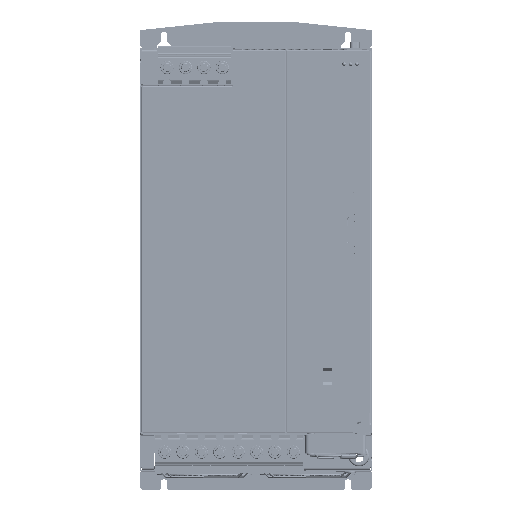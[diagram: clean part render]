
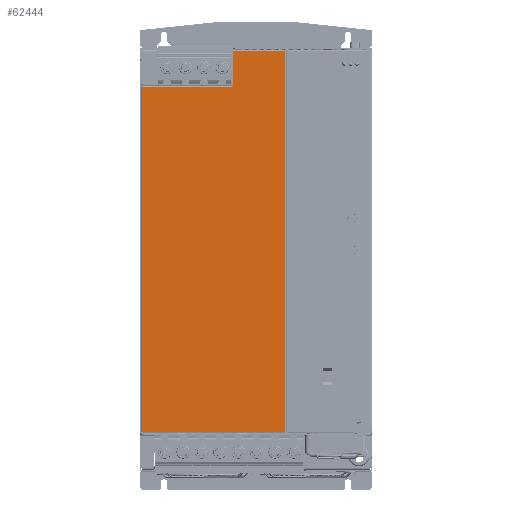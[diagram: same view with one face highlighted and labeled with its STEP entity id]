
A CAD part, top view. The second image highlights one B-rep face of the part: STEP entity #62444.
In plain terms, the highlighted planar face has unit normal (0, 0, 1) as drawn and (0, 1, 0) by its records, which use the part's own axes.
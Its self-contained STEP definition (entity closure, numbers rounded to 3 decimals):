
#14110 = CARTESIAN_POINT ( 'NONE',  ( -93.75, 20., 170.05 ) ) ;
#14626 = CARTESIAN_POINT ( 'NONE',  ( -18.2, 20., -140.55 ) ) ;
#15141 = CARTESIAN_POINT ( 'NONE',  ( -93.55, 20., -111.25 ) ) ;
#49564 = ORIENTED_EDGE ( 'NONE', *, *, #186801, .T. ) ;
#49567 = ORIENTED_EDGE ( 'NONE', *, *, #186399, .F. ) ;
#49573 = ORIENTED_EDGE ( 'NONE', *, *, #186768, .T. ) ;
#49576 = ORIENTED_EDGE ( 'NONE', *, *, #186420, .T. ) ;
#49580 = ORIENTED_EDGE ( 'NONE', *, *, #186495, .T. ) ;
#49583 = ORIENTED_EDGE ( 'NONE', *, *, #186771, .T. ) ;
#49587 = ORIENTED_EDGE ( 'NONE', *, *, #186489, .T. ) ;
#49591 = ORIENTED_EDGE ( 'NONE', *, *, #186604, .T. ) ;
#49595 = ORIENTED_EDGE ( 'NONE', *, *, #186774, .T. ) ;
#49598 = ORIENTED_EDGE ( 'NONE', *, *, #186592, .F. ) ;
#49600 = ORIENTED_EDGE ( 'NONE', *, *, #186777, .T. ) ;
#49603 = ORIENTED_EDGE ( 'NONE', *, *, #186782, .T. ) ;
#49605 = ORIENTED_EDGE ( 'NONE', *, *, #186786, .T. ) ;
#49608 = ORIENTED_EDGE ( 'NONE', *, *, #186634, .F. ) ;
#49614 = ORIENTED_EDGE ( 'NONE', *, *, #186789, .T. ) ;
#49617 = ORIENTED_EDGE ( 'NONE', *, *, #186648, .T. ) ;
#49619 = ORIENTED_EDGE ( 'NONE', *, *, #186793, .T. ) ;
#49622 = ORIENTED_EDGE ( 'NONE', *, *, #186798, .T. ) ;
#50186 = AXIS2_PLACEMENT_3D ( 'NONE', #162486, #162505, #162506 ) ;
#62444 = ADVANCED_FACE ( 'NONE', ( #124908 ), #162503, .T. ) ;
#64244 = CARTESIAN_POINT ( 'NONE',  ( -19.4, 20., -140.55 ) ) ;
#64542 = VERTEX_POINT ( 'NONE', #152317 ) ;
#64594 = CARTESIAN_POINT ( 'NONE',  ( 22.8, 20., -140.55 ) ) ;
#64605 = VERTEX_POINT ( 'NONE', #152412 ) ;
#64655 = VERTEX_POINT ( 'NONE', #167329 ) ;
#64725 = VERTEX_POINT ( 'NONE', #262153 ) ;
#65018 = CARTESIAN_POINT ( 'NONE',  ( 22.8, 20., -140.75 ) ) ;
#65161 = VERTEX_POINT ( 'NONE', #263039 ) ;
#65192 = VERTEX_POINT ( 'NONE', #263111 ) ;
#65420 = VERTEX_POINT ( 'NONE', #143913 ) ;
#65557 = VERTEX_POINT ( 'NONE', #144389 ) ;
#65689 = VERTEX_POINT ( 'NONE', #144821 ) ;
#66014 = VERTEX_POINT ( 'NONE', #145572 ) ;
#66105 = VERTEX_POINT ( 'NONE', #64244 ) ;
#66215 = VERTEX_POINT ( 'NONE', #64594 ) ;
#66325 = VERTEX_POINT ( 'NONE', #65018 ) ;
#66675 = VERTEX_POINT ( 'NONE', #126705 ) ;
#66728 = VERTEX_POINT ( 'NONE', #127035 ) ;
#66829 = VERTEX_POINT ( 'NONE', #14110 ) ;
#66927 = VERTEX_POINT ( 'NONE', #14626 ) ;
#66998 = VERTEX_POINT ( 'NONE', #15141 ) ;
#81884 = CARTESIAN_POINT ( 'NONE',  ( -20.4, 20., -111.25 ) ) ;
#81886 = DIRECTION ( 'NONE',  ( 0., 0., 1. ) ) ;
#81947 = CARTESIAN_POINT ( 'NONE',  ( -93.55, 20., -111.05 ) ) ;
#81951 = DIRECTION ( 'NONE',  ( 0., 0., 1. ) ) ;
#82184 = CARTESIAN_POINT ( 'NONE',  ( -93.55, 20., 170.05 ) ) ;
#82187 = DIRECTION ( 'NONE',  ( 1., 0., 0. ) ) ;
#82217 = CARTESIAN_POINT ( 'NONE',  ( -94.75, 20., -111.05 ) ) ;
#82219 = DIRECTION ( 'NONE',  ( -1., 0., 0. ) ) ;
#124908 = FACE_OUTER_BOUND ( 'NONE', #204381, .T. ) ;
#126705 = CARTESIAN_POINT ( 'NONE',  ( -20.4, 20., -111.05 ) ) ;
#127035 = CARTESIAN_POINT ( 'NONE',  ( -19.4, 20., -111.05 ) ) ;
#143913 = CARTESIAN_POINT ( 'NONE',  ( -93.55, 20., 170.05 ) ) ;
#144389 = CARTESIAN_POINT ( 'NONE',  ( -93.55, 20., 170.25 ) ) ;
#144821 = CARTESIAN_POINT ( 'NONE',  ( 22.8, 20., 170.05 ) ) ;
#145572 = CARTESIAN_POINT ( 'NONE',  ( -93.75, 20., -111.05 ) ) ;
#152317 = CARTESIAN_POINT ( 'NONE',  ( -18.2, 20., -140.75 ) ) ;
#152412 = CARTESIAN_POINT ( 'NONE',  ( 23., 20., 170.05 ) ) ;
#162486 = CARTESIAN_POINT ( 'NONE',  ( 24., 20., 171.25 ) ) ;
#162503 = PLANE ( 'NONE',  #50186 ) ;
#162505 = DIRECTION ( 'NONE',  ( 0., 1., 0. ) ) ;
#162506 = DIRECTION ( 'NONE',  ( 0., 0., 1. ) ) ;
#167329 = CARTESIAN_POINT ( 'NONE',  ( -93.55, 20., -111.05 ) ) ;
#186399 = EDGE_CURVE ( 'NONE', #65192, #66675, #231637, .T. ) ;
#186420 = EDGE_CURVE ( 'NONE', #66998, #64655, #231660, .T. ) ;
#186489 = EDGE_CURVE ( 'NONE', #66829, #65420, #231823, .T. ) ;
#186495 = EDGE_CURVE ( 'NONE', #64655, #66014, #231841, .T. ) ;
#186592 = EDGE_CURVE ( 'NONE', #65689, #64725, #232079, .T. ) ;
#186604 = EDGE_CURVE ( 'NONE', #65420, #65557, #232105, .T. ) ;
#186634 = EDGE_CURVE ( 'NONE', #66325, #66215, #232176, .T. ) ;
#186648 = EDGE_CURVE ( 'NONE', #64542, #66927, #232186, .T. ) ;
#186768 = EDGE_CURVE ( 'NONE', #65192, #66998, #232499, .T. ) ;
#186771 = EDGE_CURVE ( 'NONE', #66014, #66829, #232511, .T. ) ;
#186774 = EDGE_CURVE ( 'NONE', #65557, #64725, #232517, .T. ) ;
#186777 = EDGE_CURVE ( 'NONE', #65689, #64605, #232527, .T. ) ;
#186782 = EDGE_CURVE ( 'NONE', #64605, #65161, #232521, .T. ) ;
#186786 = EDGE_CURVE ( 'NONE', #65161, #66215, #232549, .T. ) ;
#186789 = EDGE_CURVE ( 'NONE', #66325, #64542, #232546, .T. ) ;
#186793 = EDGE_CURVE ( 'NONE', #66927, #66105, #232564, .T. ) ;
#186798 = EDGE_CURVE ( 'NONE', #66105, #66728, #232583, .T. ) ;
#186801 = EDGE_CURVE ( 'NONE', #66728, #66675, #232578, .T. ) ;
#204381 = EDGE_LOOP ( 'NONE', ( #49564, #49567, #49573, #49576, #49580, #49583, #49587, #49591, #49595, #49598, #49600, #49603, #49605, #49608, #49614, #49617, #49619, #49622 ) ) ;
#231637 = LINE ( 'NONE', #81884, #231642 ) ;
#231642 = VECTOR ( 'NONE', #81886, 1000. ) ;
#231660 = LINE ( 'NONE', #81947, #231685 ) ;
#231685 = VECTOR ( 'NONE', #81951, 1000. ) ;
#231823 = LINE ( 'NONE', #82184, #231831 ) ;
#231831 = VECTOR ( 'NONE', #82187, 1000. ) ;
#231841 = LINE ( 'NONE', #82217, #231847 ) ;
#231847 = VECTOR ( 'NONE', #82219, 1000. ) ;
#232079 = LINE ( 'NONE', #267570, #232083 ) ;
#232083 = VECTOR ( 'NONE', #267575, 1000. ) ;
#232105 = LINE ( 'NONE', #267684, #232111 ) ;
#232111 = VECTOR ( 'NONE', #267688, 1000. ) ;
#232176 = LINE ( 'NONE', #267980, #232183 ) ;
#232183 = VECTOR ( 'NONE', #267983, 1000. ) ;
#232186 = LINE ( 'NONE', #268123, #232209 ) ;
#232209 = VECTOR ( 'NONE', #268127, 1000. ) ;
#232499 = LINE ( 'NONE', #269370, #232515 ) ;
#232511 = LINE ( 'NONE', #269406, #232519 ) ;
#232515 = VECTOR ( 'NONE', #269395, 1000. ) ;
#232517 = LINE ( 'NONE', #269422, #232524 ) ;
#232519 = VECTOR ( 'NONE', #269411, 1000. ) ;
#232521 = LINE ( 'NONE', #269520, #232542 ) ;
#232524 = VECTOR ( 'NONE', #269429, 1000. ) ;
#232527 = LINE ( 'NONE', #269465, #232531 ) ;
#232531 = VECTOR ( 'NONE', #269470, 1000. ) ;
#232542 = VECTOR ( 'NONE', #269524, 1000. ) ;
#232546 = LINE ( 'NONE', #269590, #232562 ) ;
#232549 = LINE ( 'NONE', #269579, #232554 ) ;
#232554 = VECTOR ( 'NONE', #269584, 1000. ) ;
#232562 = VECTOR ( 'NONE', #269613, 1000. ) ;
#232564 = LINE ( 'NONE', #269641, #232571 ) ;
#232571 = VECTOR ( 'NONE', #269649, 1000. ) ;
#232578 = LINE ( 'NONE', #269727, #232593 ) ;
#232583 = LINE ( 'NONE', #269716, #232587 ) ;
#232587 = VECTOR ( 'NONE', #269722, 1000. ) ;
#232593 = VECTOR ( 'NONE', #269731, 1000. ) ;
#262153 = CARTESIAN_POINT ( 'NONE',  ( 22.8, 20., 170.25 ) ) ;
#263039 = CARTESIAN_POINT ( 'NONE',  ( 23., 20., -140.55 ) ) ;
#263111 = CARTESIAN_POINT ( 'NONE',  ( -20.4, 20., -111.25 ) ) ;
#267570 = CARTESIAN_POINT ( 'NONE',  ( 22.8, 20., 171.25 ) ) ;
#267575 = DIRECTION ( 'NONE',  ( 0., 0., 1. ) ) ;
#267684 = CARTESIAN_POINT ( 'NONE',  ( -93.55, 20., 171.25 ) ) ;
#267688 = DIRECTION ( 'NONE',  ( 0., 0., 1. ) ) ;
#267980 = CARTESIAN_POINT ( 'NONE',  ( 22.8, 20., -140.75 ) ) ;
#267983 = DIRECTION ( 'NONE',  ( 0., 0., 1. ) ) ;
#268123 = CARTESIAN_POINT ( 'NONE',  ( -18.2, 20., -141.25 ) ) ;
#268127 = DIRECTION ( 'NONE',  ( 0., 0., 1. ) ) ;
#269370 = CARTESIAN_POINT ( 'NONE',  ( 24., 20., -111.25 ) ) ;
#269395 = DIRECTION ( 'NONE',  ( -1., 0., 0. ) ) ;
#269406 = CARTESIAN_POINT ( 'NONE',  ( -93.75, 20., 171.25 ) ) ;
#269411 = DIRECTION ( 'NONE',  ( 0., 0., 1. ) ) ;
#269422 = CARTESIAN_POINT ( 'NONE',  ( 24., 20., 170.25 ) ) ;
#269429 = DIRECTION ( 'NONE',  ( 1., 0., 0. ) ) ;
#269465 = CARTESIAN_POINT ( 'NONE',  ( 24., 20., 170.05 ) ) ;
#269470 = DIRECTION ( 'NONE',  ( 1., 0., 0. ) ) ;
#269520 = CARTESIAN_POINT ( 'NONE',  ( 23., 20., 171.25 ) ) ;
#269524 = DIRECTION ( 'NONE',  ( 0., 0., -1. ) ) ;
#269579 = CARTESIAN_POINT ( 'NONE',  ( 24., 20., -140.55 ) ) ;
#269584 = DIRECTION ( 'NONE',  ( -1., 0., 0. ) ) ;
#269590 = CARTESIAN_POINT ( 'NONE',  ( 24., 20., -140.75 ) ) ;
#269613 = DIRECTION ( 'NONE',  ( -1., 0., 0. ) ) ;
#269641 = CARTESIAN_POINT ( 'NONE',  ( 24., 20., -140.55 ) ) ;
#269649 = DIRECTION ( 'NONE',  ( -1., 0., 0. ) ) ;
#269716 = CARTESIAN_POINT ( 'NONE',  ( -19.4, 20., 171.25 ) ) ;
#269722 = DIRECTION ( 'NONE',  ( 0., 0., 1. ) ) ;
#269727 = CARTESIAN_POINT ( 'NONE',  ( 24., 20., -111.05 ) ) ;
#269731 = DIRECTION ( 'NONE',  ( -1., 0., 0. ) ) ;
